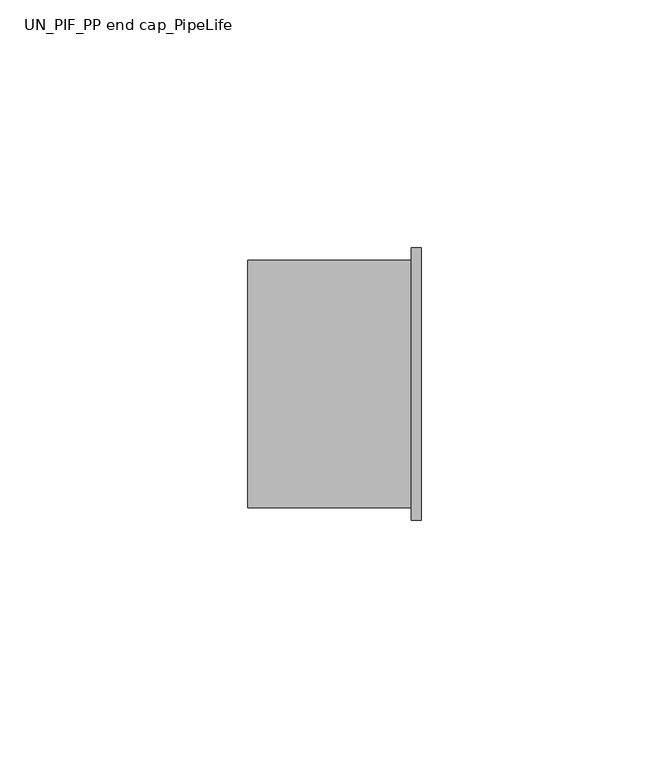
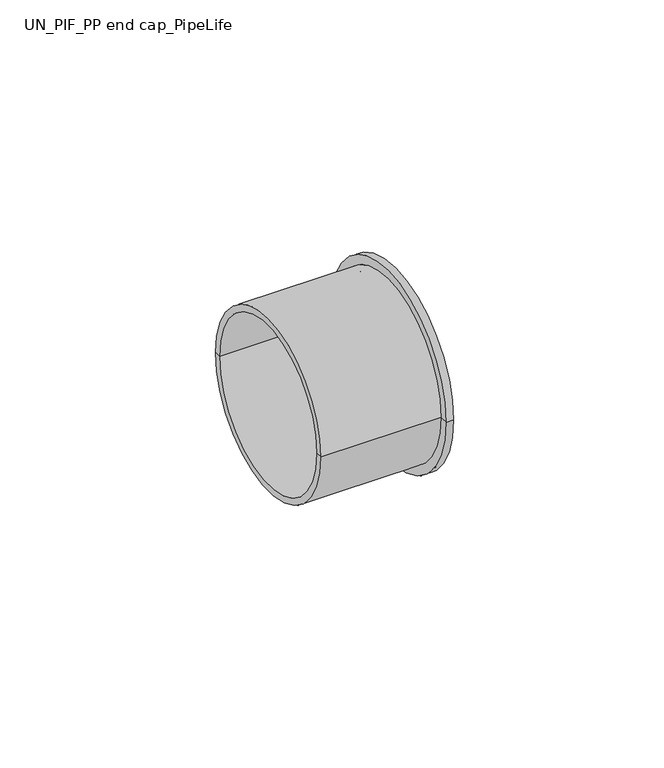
"""IFC4 building model written with IfcOpenShell, lengths in millimetres: pipe fitting geometry, UN_PIF_PP end cap_PipeLife : Black, var. DN/OD (max. ø125)."""

from ifc_helpers import new_model, si_unit, frame, origin, place, context, project, spatial, polyline, circle_curve, source, transform, mapped, element, save
from ifc_brep_helpers import plane_surface, cylinder_surface, revolved_surface, advanced_brep


def un_pif_pp_end_cap_pipelife_9d9f2e3f(model_context):
    return source(origin(), model_context, "Body", "AdvancedBrep", [
        advanced_brep(
        [(0.0, 0.0, 0.0), (0.0, 23.2, 0.0), (0.0, -23.2, 0.0), (2.0, -27.5, 0.0), (2.0, 27.5, 0.0), (2.0, 0.0, 0.0), (-33.0, -25.0, 0.0), (-33.0, 25.0, 0.0), (0.0, 25.0, 0.0), (0.0, -25.0, 0.0), (-33.0, -23.2, 0.0), (-33.0, 23.2, 0.0), (0.0, -27.5, 0.0), (0.0, 27.5, 0.0)],
        [
            (0, 1),
            (1, 2, circle_curve(frame((0.0, 0.0, 0.0), z_axis=(-1.0, 0.0, 0.0), x_axis=(0.0, 1.0, 0.0)), 23.2)),
            (2, 0),
            (2, 1, circle_curve(frame((0.0, 0.0, 0.0), z_axis=(-1.0, 0.0, 0.0), x_axis=(0.0, 1.0, 0.0)), 23.2)),
            (3, 4, circle_curve(frame((2.0, 0.0, 0.0), z_axis=(1.0, 0.0, 0.0), x_axis=(0.0, 1.0, 0.0)), 27.5)),
            (4, 5),
            (5, 3),
            (4, 3, circle_curve(frame((2.0, 0.0, 0.0), z_axis=(1.0, 0.0, 0.0), x_axis=(0.0, 1.0, 0.0)), 27.5)),
            (6, 7, circle_curve(frame((-33.0, 0.0, 0.0), z_axis=(1.0, 0.0, 0.0), x_axis=(0.0, 1.0, 0.0)), 25.0)),
            (7, 8),
            (8, 9, circle_curve(frame((0.0, 0.0, 0.0), z_axis=(-1.0, 0.0, 0.0), x_axis=(0.0, 1.0, 0.0)), 25.0)),
            (9, 6),
            (7, 6, circle_curve(frame((-33.0, 0.0, 0.0), z_axis=(1.0, 0.0, 0.0), x_axis=(0.0, 1.0, 0.0)), 25.0)),
            (9, 8, circle_curve(frame((0.0, 0.0, 0.0), z_axis=(-1.0, 0.0, 0.0), x_axis=(0.0, 1.0, 0.0)), 25.0)),
            (10, 11, circle_curve(frame((-33.0, 0.0, 0.0), z_axis=(1.0, 0.0, 0.0), x_axis=(0.0, 1.0, 0.0)), 23.2)),
            (11, 7),
            (6, 10),
            (11, 10, circle_curve(frame((-33.0, 0.0, 0.0), z_axis=(1.0, 0.0, 0.0), x_axis=(0.0, 1.0, 0.0)), 23.2)),
            (1, 11),
            (10, 2),
            (12, 13, circle_curve(frame((0.0, 0.0, 0.0), z_axis=(1.0, 0.0, 0.0), x_axis=(0.0, 1.0, 0.0)), 27.5)),
            (13, 4),
            (3, 12),
            (13, 12, circle_curve(frame((0.0, 0.0, 0.0), z_axis=(1.0, 0.0, 0.0), x_axis=(0.0, 1.0, 0.0)), 27.5)),
            (8, 13),
            (12, 9),
        ],
        [
            plane_surface(frame((0.0, 0.0, 0.0), z_axis=(-1.0, 0.0, 0.0), x_axis=(0.0, 1.0, 0.0))),
            plane_surface(frame((2.0, 0.0, 0.0), z_axis=(1.0, 0.0, 0.0), x_axis=(0.0, 1.0, 0.0))),
            cylinder_surface(frame((-15.0, 0.0, 0.0), z_axis=(-1.0, 0.0, 0.0), x_axis=(0.0, 1.0, 0.0)), 25.0),
            plane_surface(frame((-33.0, 0.0, 0.0), z_axis=(-1.0, 0.0, 0.0), x_axis=(0.0, 1.0, 0.0))),
            revolved_surface(polyline([(-33.0, 23.2, 0.0), (0.0, 23.2, 0.0)]), (-15.0, 0.0, 0.0), (-1.0, 0.0, 0.0)),
            cylinder_surface(frame((-15.0, 0.0, 0.0), z_axis=(-1.0, 0.0, 0.0), x_axis=(0.0, 1.0, 0.0)), 27.5),
        ],
        [
            (0, [[1, 2, 3]]),
            (0, [[-3, 4, -1]]),
            (1, [[5, 6, 7]]),
            (1, [[8, -7, -6]]),
            (2, [[9, 10, 11, 12]]),
            (2, [[13, -12, 14, -10]]),
            (3, [[15, 16, -9, 17]]),
            (3, [[18, -17, -13, -16]]),
            (4, [[-2, 19, -15, 20]]),
            (4, [[-4, -20, -18, -19]]),
            (5, [[21, 22, -5, 23]]),
            (5, [[24, -23, -8, -22]]),
            (0, [[-11, 25, -21, 26]]),
            (0, [[-14, -26, -24, -25]]),
        ],
    ),
    ])


if __name__ == "__main__":
    model = new_model("IFC4")
    model_context = context("Model", 3, world=origin())
    ifc_project = project(units=[si_unit("LENGTHUNIT", "METRE", prefix="MILLI")], contexts=[model_context])
    site = spatial("IfcSite", under=ifc_project)
    building = spatial("IfcBuilding", under=site)
    placement = place(None, origin())
    un_pif_pp_end_cap_pipelife_shape = un_pif_pp_end_cap_pipelife_9d9f2e3f(model_context)
    element("IfcPipeFitting", 1, ObjectType="UN_PIF_PP end cap_PipeLife : Black, var. DN/OD (max. ø125)", at=placement, inside=building, context=model_context, shape_type="MappedRepresentation", body=[
        mapped(un_pif_pp_end_cap_pipelife_shape, transform((0.0, 0.0, 0.0), x_axis=(1.0, 0.0, 0.0), y_axis=(0.0, 1.0, 0.0), z_axis=(0.0, 0.0, 1.0))),
    ])
    save(model, "model.ifc")
